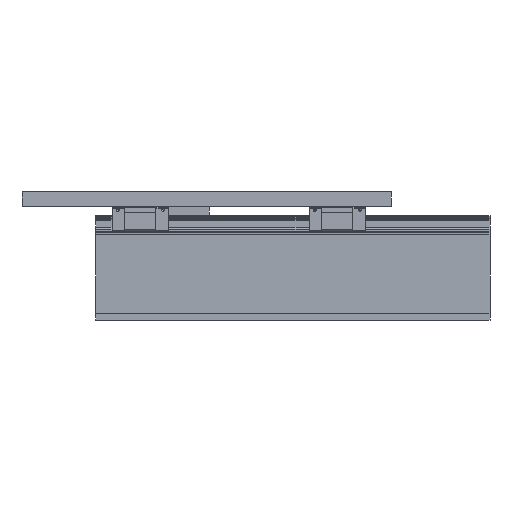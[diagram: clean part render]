
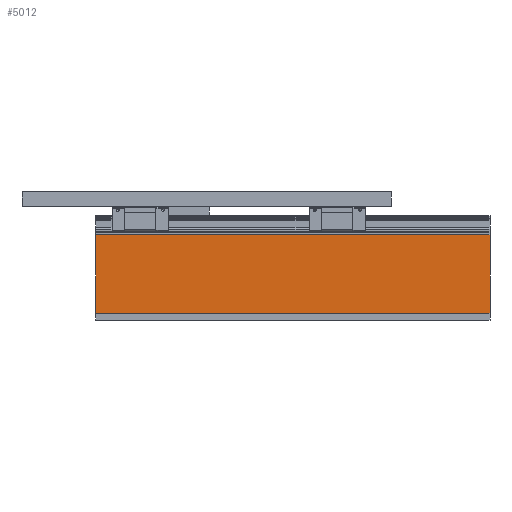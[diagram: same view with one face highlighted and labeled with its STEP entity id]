
A CAD part, front view. The second image highlights one B-rep face of the part: STEP entity #5012.
In plain terms, the highlighted planar face has unit normal (0, -1, 0).
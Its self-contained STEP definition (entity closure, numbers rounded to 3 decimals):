
#1274=CARTESIAN_POINT('Vertex',(200.,-79.,87.)) ;
#1277=CARTESIAN_POINT('Line Origine',(200.,-79.,47.)) ;
#1281=CARTESIAN_POINT('Vertex',(200.,-79.,7.)) ;
#1477=CARTESIAN_POINT('Vertex',(-200.,-79.,7.)) ;
#1480=CARTESIAN_POINT('Line Origine',(-200.,-79.,47.)) ;
#1484=CARTESIAN_POINT('Vertex',(-200.,-79.,87.)) ;
#4984=CARTESIAN_POINT('Line Origine',(0.,-79.,87.)) ;
#4996=CARTESIAN_POINT('Axis2P3D Location',(0.,-79.,87.)) ;
#5001=CARTESIAN_POINT('Line Origine',(0.,-79.,7.)) ;
#1278=DIRECTION('Vector Direction',(0.,0.,-1.)) ;
#1481=DIRECTION('Vector Direction',(0.,0.,-1.)) ;
#4985=DIRECTION('Vector Direction',(1.,0.,0.)) ;
#4997=DIRECTION('Axis2P3D Direction',(0.,-1.,0.)) ;
#4998=DIRECTION('Axis2P3D XDirection',(0.,0.,-1.)) ;
#5002=DIRECTION('Vector Direction',(1.,0.,0.)) ;
#4999=AXIS2_PLACEMENT_3D('Plane Axis2P3D',#4996,#4997,#4998) ;
#5007=ORIENTED_EDGE('',*,*,#4988,.F.) ;
#5008=ORIENTED_EDGE('',*,*,#1486,.T.) ;
#5009=ORIENTED_EDGE('',*,*,#5005,.T.) ;
#5010=ORIENTED_EDGE('',*,*,#1283,.F.) ;
#1279=VECTOR('Line Direction',#1278,1.) ;
#1482=VECTOR('Line Direction',#1481,1.) ;
#4986=VECTOR('Line Direction',#4985,1.) ;
#5003=VECTOR('Line Direction',#5002,1.) ;
#5012=ADVANCED_FACE('LE_30_100_T12_TUENKERS',(#5011),#5000,.T.) ;
#1283=EDGE_CURVE('',#1275,#1282,#1280,.T.) ;
#1486=EDGE_CURVE('',#1485,#1478,#1483,.T.) ;
#4988=EDGE_CURVE('',#1485,#1275,#4987,.T.) ;
#5005=EDGE_CURVE('',#1478,#1282,#5004,.T.) ;
#5006=EDGE_LOOP('',(#5007,#5008,#5009,#5010)) ;
#5011=FACE_OUTER_BOUND('',#5006,.T.) ;
#1280=LINE('Line',#1277,#1279) ;
#1483=LINE('Line',#1480,#1482) ;
#4987=LINE('Line',#4984,#4986) ;
#5004=LINE('Line',#5001,#5003) ;
#5000=PLANE('Plane',#4999) ;
#1275=VERTEX_POINT('',#1274) ;
#1282=VERTEX_POINT('',#1281) ;
#1478=VERTEX_POINT('',#1477) ;
#1485=VERTEX_POINT('',#1484) ;
